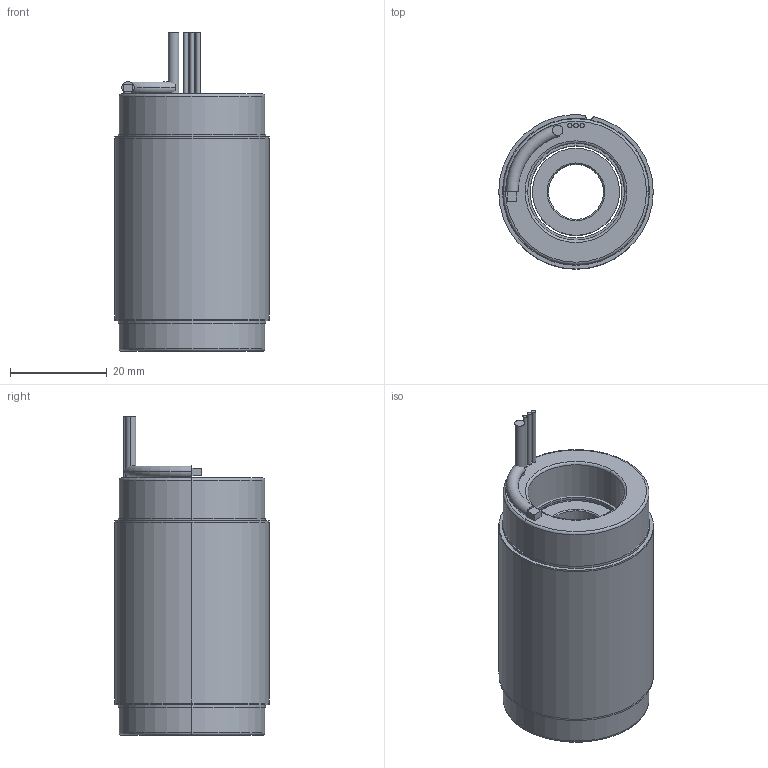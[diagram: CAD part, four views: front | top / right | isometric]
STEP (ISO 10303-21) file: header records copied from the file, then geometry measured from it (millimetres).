
FILE_DESCRIPTION (( 'STEP AP214' ), '1' );
FILE_NAME ('6100335-04.STEP', '2019-10-23T19:59:06', ( '' ), ( '' ), 'SwSTEP 2.0', 'SolidWorks 2016', '' );
FILE_SCHEMA (( 'AUTOMOTIVE_DESIGN' ));
Length unit declared in the file: millimetre
Products named in the file (11): 4450178-XX_4450178-04; 4400096-00; 4250359-XX_4250359-04; COMP4500538-XX(COIL)_COMP4500538-04(COIL); 6100335-04; 4600475-00; 4150165-XX_4150165-04; 4500538-XX_4500538-04
Assembly tree (10 placements, depth 4):
  6100335-04
    4500538-XX_4500538-04
      COMP4500538-XX(COIL)_COMP4500538-04(COIL)
      4450178-XX_4450178-04
        4450178-XX_4450178-04
        4400096-00
        4400096-00
        4600475-00
        4600475-00
    4250359-XX_4250359-04
      4150165-XX_4150165-04
Bounding box: 32 x 31.99 x 66.04 mm (x, y, z)
Volume: 47579.5 mm3; surface area: 24537.8 mm2
Topology: 12 solids, 12 shells, 90 faces, 178 edges, 112 vertices
Faces by surface type: cylinder 44, plane 32, torus 10, cone 4
Entity records: 2841 total; most frequent: DIRECTION 508, CARTESIAN_POINT 396, ORIENTED_EDGE 356, AXIS2_PLACEMENT_3D 224, EDGE_CURVE 178, CIRCLE 118, VERTEX_POINT 112, EDGE_LOOP 104
